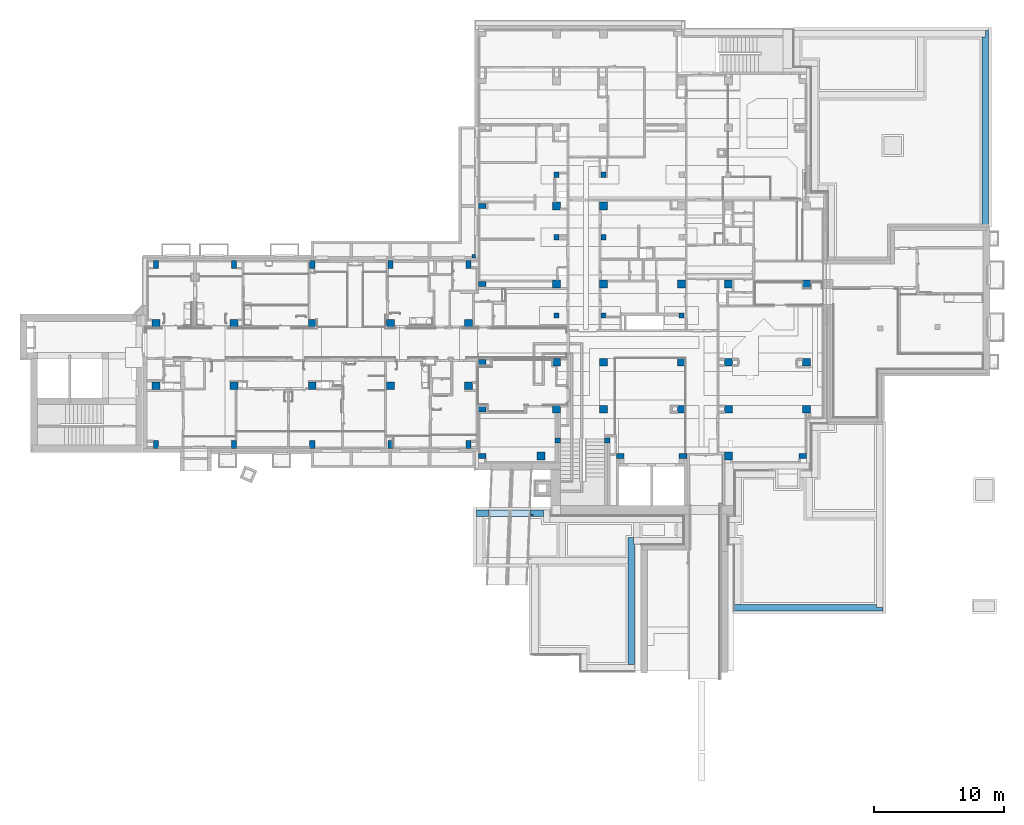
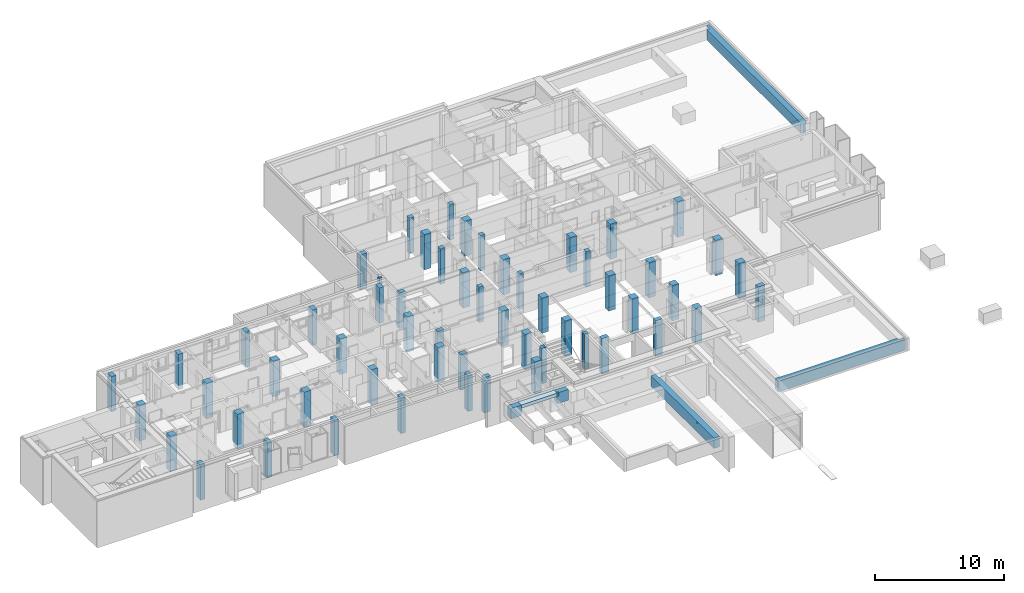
# One storey, part 3 of 84: 57 columns, 6 footings, 2 openings.
"""IFC4 building model written with IfcOpenShell, lengths in metres."""

from ifc_helpers import new_model, entity, si_unit, converted_unit, derived_unit, frame, frame_2d, origin, origin_with_axes, place, context, subcontext, project, spatial, polyline, rectangle, outline, extrude, faceted_brep, material, element, save


model = new_model("IFC4")

# Units and contexts
model_context = context("Model", 3, precision=1e-05, world=origin())
body_context = subcontext(model_context, "Body", "Model", "MODEL_VIEW")
ifc_project = project(units=[si_unit("LENGTHUNIT", "METRE"), si_unit("AREAUNIT", "SQUARE_METRE"), si_unit("VOLUMEUNIT", "CUBIC_METRE"), si_unit("MASSUNIT", "GRAM", prefix="KILO"), converted_unit("PLANEANGLEUNIT", "DEGREE", entity("IfcPlaneAngleMeasure", 0.0174532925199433), si_unit("PLANEANGLEUNIT", "RADIAN"), dimensions=[0, 0, 0, 0, 0, 0, 0]), derived_unit("THERMALTRANSMITTANCEUNIT", [(si_unit("POWERUNIT", "WATT"), 1), (si_unit("THERMODYNAMICTEMPERATUREUNIT", "KELVIN"), -1), (si_unit("LENGTHUNIT", "METRE"), -2)]), derived_unit("VOLUMETRICFLOWRATEUNIT", [(si_unit("LENGTHUNIT", "METRE"), 3), (converted_unit("TIMEUNIT", "hour", entity("IfcTimeMeasure", 3600.0), si_unit("TIMEUNIT", "SECOND"), dimensions=[0, 0, 1, 0, 0, 0, 0]), -1), (si_unit("LENGTHUNIT", "METRE"), -1)])], contexts=[model_context])

# Site, building, storey
site_placement = place(None, origin())
site = spatial("IfcSite", under=ifc_project, at=site_placement, Name="3. ASŘ", CompositionType="ELEMENT")
building_placement = place(site_placement, origin())
building = spatial("IfcBuilding", under=site, at=building_placement, Name="Pavilon C", CompositionType="ELEMENT")
storey_placement = place(building_placement, frame((0.0, 0.0, -3.3)))
storey = spatial("IfcBuildingStorey", under=building, at=storey_placement, Name="Půdorys 1.PP", CompositionType="ELEMENT", Elevation=-3.3)

# Footing
ifc_material_1 = material(Name="ZELEZOBETONOVÁ KCE")
footing_1_placement = place(storey_placement, frame((24.6, -4.65, 1.8)))
element("IfcFooting", 1, at=footing_1_placement, inside=storey, material=ifc_material_1, PredefinedType="STRIP_FOOTING", context=body_context, shape_type="Brep", body=[
    faceted_brep([(0.936240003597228, 0.0, 0.0), (0.957023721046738, 0.5, 0.0), (0.0, 0.5, 0.0), (0.0, 0.0, 0.0), (0.957023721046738, 0.5, 1.0), (0.936240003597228, 0.0, 1.0), (0.0, 0.0, 1.0), (0.0, 0.5, 1.0)], [[[0, 1, 2, 3]], [[4, 5, 6, 7]], [[1, 0, 5, 4]], [[2, 1, 4, 7]], [[3, 2, 7, 6]], [[0, 3, 6, 5]]], orient=[[False], [False], [False], [False], [False], [False]]),
])

# Footing, opening
ifc_material_2 = material(Name="ZELEZOBETONOVÁ KCE")
footing_2_placement = place(storey_placement, frame((36.25, -15.995, 1.8)))
footing_2 = element("IfcFooting", 2, at=footing_2_placement, inside=storey, material=ifc_material_2, PredefinedType="STRIP_FOOTING", context=body_context, shape_type="Brep", body=[
    faceted_brep([(0.0, 0.0, 0.0), (0.5, 0.0, 0.0), (0.5, 9.245, 0.0), (0.4, 9.245, 0.0), (0.4, 9.745, 0.0), (0.0, 9.745, 0.0), (0.5, 0.0, 1.0), (0.0, 0.0, 1.0), (0.0, 9.745, 1.0), (0.4, 9.745, 1.0), (0.4, 9.245, 1.0), (0.5, 9.245, 1.0)], [[[0, 1, 2, 3, 4, 5]], [[6, 7, 8, 9, 10, 11]], [[1, 0, 7, 6]], [[2, 1, 6, 11]], [[3, 2, 11, 10]], [[4, 3, 10, 9]], [[5, 4, 9, 8]], [[0, 5, 8, 7]]], orient=[[False], [False], [False], [False], [False], [False], [False], [False]]),
])
opening_1_placement = place(footing_2_placement, frame((0.0, 2.71999999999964, 0.770000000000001), z_axis=(1.0, 0.0, 0.0), x_axis=(0.0, 0.0, 1.0)))
element("IfcOpeningElement", 3, at=opening_1_placement, cuts=footing_2, Name="ZTI", ObjectType="Opening", context=body_context, shape_type="SweptSolid", body=[
    extrude(outline(polyline([(0.0999999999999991, 0.0), (0.0895471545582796, 0.000547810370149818), (0.079208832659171, 0.00218523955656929), (0.0690983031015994, 0.00489434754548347), (0.0593263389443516, 0.00864545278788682), (0.0500000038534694, 0.0133974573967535), (0.0412214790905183, 0.0190982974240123), (0.0330869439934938, 0.0256855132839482), (0.025685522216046, 0.0330869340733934), (0.0190983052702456, 0.0412214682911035), (0.0133974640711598, 0.0499999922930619), (0.00864545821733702, 0.0593263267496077), (0.00489435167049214, 0.0690982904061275), (0.00218524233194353, 0.079208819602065), (0.000547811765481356, 0.0895471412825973), (0.0, 0.0999999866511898), (0.000547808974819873, 0.110452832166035), (0.00218523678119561, 0.120791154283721), (0.00489434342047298, 0.130901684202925), (0.00864544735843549, 0.140673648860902), (0.0133974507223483, 0.14999998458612), (0.0190982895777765, 0.158778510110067), (0.0256855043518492, 0.166913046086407), (0.0330869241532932, 0.174314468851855), (0.0412214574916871, 0.180901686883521), (0.0499999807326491, 0.186602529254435), (0.0593263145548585, 0.191354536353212), (0.06909827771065, 0.195105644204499), (0.0792088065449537, 0.197814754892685), (0.0895471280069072, 0.199452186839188), (0.0999999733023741, 0.2), (0.110452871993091, 0.199452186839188), (0.120791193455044, 0.197814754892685), (0.130901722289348, 0.195105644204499), (0.14067368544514, 0.191354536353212), (0.150000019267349, 0.186602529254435), (0.158778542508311, 0.180901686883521), (0.166913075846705, 0.174314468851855), (0.174314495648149, 0.166913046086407), (0.180901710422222, 0.158778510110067), (0.18660254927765, 0.14999998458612), (0.191354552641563, 0.140673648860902), (0.195105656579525, 0.130901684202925), (0.197814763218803, 0.120791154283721), (0.199452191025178, 0.110452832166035), (0.199999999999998, 0.0999999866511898), (0.199452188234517, 0.0895471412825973), (0.197814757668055, 0.079208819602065), (0.195105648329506, 0.0690982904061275), (0.191354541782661, 0.0593263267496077), (0.186602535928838, 0.0499999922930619), (0.180901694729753, 0.0412214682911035), (0.174314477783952, 0.0330869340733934), (0.166913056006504, 0.0256855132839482), (0.15877852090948, 0.0190982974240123), (0.149999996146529, 0.0133974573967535), (0.140673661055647, 0.00864545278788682), (0.130901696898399, 0.00489434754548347), (0.120791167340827, 0.00218523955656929), (0.110452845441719, 0.000547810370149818), (0.0999999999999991, 0.0)])), origin_with_axes(), (0.0, 0.0, 1.0), 0.5),
])

ifc_material_3 = material(Name="ZELEZOBETONOVÁ KCE")
footing_3_placement = place(storey_placement, frame((28.748977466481, -4.65, 1.8)))
footing_3 = element("IfcFooting", 4, at=footing_3_placement, inside=storey, material=ifc_material_3, PredefinedType="STRIP_FOOTING", context=body_context, shape_type="Brep", body=[
    faceted_brep([(0.99602253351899, 0.0, 0.0), (0.99602253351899, 0.5, 0.0), (0.0207837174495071, 0.5, 0.0), (0.0, 0.0, 0.0), (0.99602253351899, 0.5, 1.0), (0.99602253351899, 0.0, 1.0), (0.0, 0.0, 1.0), (0.0207837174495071, 0.5, 1.0)], [[[0, 1, 2, 3]], [[4, 5, 6, 7]], [[1, 0, 5, 4]], [[2, 1, 4, 7]], [[3, 2, 7, 6]], [[0, 3, 6, 5]]], orient=[[False], [False], [False], [False], [False], [False]]),
])
opening_2_placement = place(footing_3_placement, frame((0.0360225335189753, 0.0, 0.7), z_axis=(0.0, 1.0, 0.0), x_axis=(0.0, 0.0, 1.0)))
element("IfcOpeningElement", 5, at=opening_2_placement, cuts=footing_3, Name="Prostup stěnou", ObjectType="Opening", context=body_context, shape_type="SweptSolid", body=[
    extrude(outline(polyline([(0.0, 0.15), (0.3, 0.15), (0.3, 0.0), (0.0, 0.0), (0.0, 0.15)])), origin_with_axes(), (0.0, 0.0, 1.0), 0.15),
])

# Footings
ifc_material_4 = material(Name="ZELEZOBETONOVÁ KCE")
footing_4_placement = place(storey_placement, frame((25.5362400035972, -4.65000000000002, 2.5)))
element("IfcFooting", 6, at=footing_4_placement, inside=storey, material=ifc_material_4, PredefinedType="STRIP_FOOTING", context=body_context, shape_type="Brep", body=[
    faceted_brep([(3.21273746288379, 9.09494701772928e-16, 0.0), (3.23352118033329, 0.5, 0.0), (0.0207837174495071, 0.5, 0.0), (0.0, 9.09494701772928e-16, 0.0), (3.23352118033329, 0.5, 0.3), (3.21273746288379, 9.09494701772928e-16, 0.3), (0.0, 9.09494701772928e-16, 0.3), (0.0207837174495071, 0.5, 0.3)], [[[0, 1, 2, 3]], [[4, 5, 6, 7]], [[1, 0, 5, 4]], [[2, 1, 4, 7]], [[3, 2, 7, 6]], [[0, 3, 6, 5]]], orient=[[False], [False], [False], [False], [False], [False]]),
])
ifc_material_5 = material(Name="ZELEZOBETONOVÁ KCE")
footing_5_placement = place(storey_placement, frame((44.4, -11.875, 1.8)))
element("IfcFooting", 7, at=footing_5_placement, inside=storey, material=ifc_material_5, PredefinedType="STRIP_FOOTING", context=body_context, shape_type="Brep", body=[
    faceted_brep([(10.9250000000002, 0.25, 0.0), (10.9250000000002, 0.5, 0.0), (0.0, 0.5, 0.0), (0.0, 0.0, 0.0), (11.4250000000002, 0.0, 0.0), (11.4250000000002, 0.25, 0.0), (10.9250000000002, 0.5, 1.0), (10.9250000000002, 0.25, 1.0), (11.4250000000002, 0.25, 1.0), (11.4250000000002, 0.0, 1.0), (0.0, 0.0, 1.0), (0.0, 0.5, 1.0)], [[[0, 1, 2, 3, 4, 5]], [[6, 7, 8, 9, 10, 11]], [[1, 0, 7, 6]], [[2, 1, 6, 11]], [[3, 2, 11, 10]], [[4, 3, 10, 9]], [[5, 4, 9, 8]], [[0, 5, 8, 7]]], orient=[[False], [False], [False], [False], [False], [False], [False], [False]]),
])
ifc_material_6 = material(Name="ZELEZOBETONOVÁ KCE")
footing_6_placement = place(storey_placement, frame((63.425, 17.6, 1.8)))
element("IfcFooting", 8, at=footing_6_placement, inside=storey, material=ifc_material_6, PredefinedType="STRIP_FOOTING", context=body_context, shape_type="Brep", body=[
    faceted_brep([(0.248499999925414, 14.575, 0.0), (0.0, 14.575, 0.0), (0.0, -3.63797880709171e-15, 0.0), (0.5, -3.63797880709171e-15, 0.0), (0.5, 15.075, 0.0), (0.248499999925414, 15.075, 0.0), (0.0, 14.575, 1.0), (0.248499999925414, 14.575, 1.0), (0.248499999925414, 15.075, 1.0), (0.5, 15.075, 1.0), (0.5, -3.63797880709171e-15, 1.0), (0.0, -3.63797880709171e-15, 1.0)], [[[0, 1, 2, 3, 4, 5]], [[6, 7, 8, 9, 10, 11]], [[1, 0, 7, 6]], [[2, 1, 6, 11]], [[3, 2, 11, 10]], [[4, 3, 10, 9]], [[5, 4, 9, 8]], [[0, 5, 8, 7]]], orient=[[False], [False], [False], [False], [False], [False], [False], [False]]),
])

# Columns
ifc_material_7 = material(Name="ZELEZOBETONOVÁ KCE")
column_1_placement = place(storey_placement, frame((30.95, 11.0, -0.4)))
element("IfcColumn", 9, at=column_1_placement, inside=storey, material=ifc_material_7, PredefinedType="COLUMN", context=body_context, shape_type="SweptSolid", body=[
    extrude(rectangle(XDim=0.4, YDim=0.4, at=frame_2d((-0.2, -0.2), x_axis=(-1.0, 0.0))), origin_with_axes(), (0.0, 0.0, 1.0), 3.35),
])
ifc_material_8 = material(Name="ZELEZOBETONOVÁ KCE")
column_2_placement = place(storey_placement, frame((34.55, 21.8, -0.4)))
element("IfcColumn", 10, at=column_2_placement, inside=storey, material=ifc_material_8, PredefinedType="COLUMN", context=body_context, shape_type="SweptSolid", body=[
    extrude(rectangle(XDim=0.4, YDim=0.4, at=frame_2d((-0.2, -0.2), x_axis=(-1.0, 0.0))), origin_with_axes(), (0.0, 0.0, 1.0), 3.35),
])
ifc_material_9 = material(Name="ZELEZOBETONOVÁ KCE")
column_3_placement = place(storey_placement, frame((30.95, 17.0, -0.4)))
element("IfcColumn", 11, at=column_3_placement, inside=storey, material=ifc_material_9, PredefinedType="COLUMN", context=body_context, shape_type="SweptSolid", body=[
    extrude(rectangle(XDim=0.4, YDim=0.4, at=frame_2d((-0.2, -0.2), x_axis=(-1.0, 0.0))), origin_with_axes(), (0.0, 0.0, 1.0), 3.35),
])
ifc_material_10 = material(Name="ZELEZOBETONOVÁ KCE")
column_4_placement = place(storey_placement, frame((50.25, 13.5, -0.4)))
element("IfcColumn", 12, at=column_4_placement, inside=storey, material=ifc_material_10, PredefinedType="COLUMN", context=body_context, shape_type="SweptSolid", body=[
    extrude(rectangle(XDim=0.6, YDim=0.6, at=frame_2d((-0.3, -0.3), x_axis=(-1.0, 0.0))), origin_with_axes(), (0.0, 0.0, 1.0), 3.35),
])
ifc_material_11 = material(Name="ZELEZOBETONOVÁ KCE")
column_5_placement = place(storey_placement, frame((34.65, 3.9, -0.4)))
element("IfcColumn", 13, at=column_5_placement, inside=storey, material=ifc_material_11, PredefinedType="COLUMN", context=body_context, shape_type="SweptSolid", body=[
    extrude(rectangle(XDim=0.6, YDim=0.6, at=frame_2d((-0.3, -0.3), x_axis=(-1.0, 0.0))), origin_with_axes(), (0.0, 0.0, 1.0), 3.35),
])
ifc_material_12 = material(Name="ZELEZOBETONOVÁ KCE")
column_6_placement = place(storey_placement, frame((34.65, 7.5, -0.4)))
element("IfcColumn", 14, at=column_6_placement, inside=storey, material=ifc_material_12, PredefinedType="COLUMN", context=body_context, shape_type="SweptSolid", body=[
    extrude(rectangle(XDim=0.6, YDim=0.6, at=frame_2d((-0.3, -0.3), x_axis=(-1.0, 0.0))), origin_with_axes(), (0.0, 0.0, 1.0), 3.35),
])
ifc_material_13 = material(Name="ZELEZOBETONOVÁ KCE")
column_7_placement = place(storey_placement, frame((31.05, 19.5, -0.4)))
element("IfcColumn", 15, at=column_7_placement, inside=storey, material=ifc_material_13, PredefinedType="COLUMN", context=body_context, shape_type="SweptSolid", body=[
    extrude(rectangle(XDim=0.6, YDim=0.6, at=frame_2d((-0.3, -0.3), x_axis=(-1.0, 0.0))), origin_with_axes(), (0.0, 0.0, 1.0), 3.35),
])
ifc_material_14 = material(Name="ZELEZOBETONOVÁ KCE")
column_8_placement = place(storey_placement, frame((34.85, 1.4, -0.4)))
element("IfcColumn", 16, at=column_8_placement, inside=storey, material=ifc_material_14, PredefinedType="COLUMN", context=body_context, shape_type="SweptSolid", body=[
    extrude(rectangle(XDim=0.4, YDim=0.4, at=frame_2d((-0.2, -0.2), x_axis=(-1.0, 0.0))), origin_with_axes(), (0.0, 0.0, 1.0), 3.35),
])
ifc_material_15 = material(Name="ZELEZOBETONOVÁ KCE")
column_9_placement = place(storey_placement, frame((31.05, 1.4, -0.4)))
element("IfcColumn", 17, at=column_9_placement, inside=storey, material=ifc_material_15, PredefinedType="COLUMN", context=body_context, shape_type="SweptSolid", body=[
    extrude(rectangle(XDim=0.4, YDim=0.4, at=frame_2d((-0.2, -0.2), x_axis=(-1.0, 0.0))), origin_with_axes(), (0.0, 0.0, 1.0), 3.35),
])
ifc_material_16 = material(Name="ZELEZOBETONOVÁ KCE")
column_10_placement = place(storey_placement, frame((31.05, 3.9, -0.4)))
element("IfcColumn", 18, at=column_10_placement, inside=storey, material=ifc_material_16, PredefinedType="COLUMN", context=body_context, shape_type="SweptSolid", body=[
    extrude(rectangle(XDim=0.6, YDim=0.6, at=frame_2d((-0.3, -0.3), x_axis=(-1.0, 0.0))), origin_with_axes(), (0.0, 0.0, 1.0), 3.35),
])
ifc_material_17 = material(Name="ZELEZOBETONOVÁ KCE")
column_11_placement = place(storey_placement, frame((29.85, 0.299999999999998, -0.1)))
element("IfcColumn", 19, at=column_11_placement, inside=storey, material=ifc_material_17, PredefinedType="COLUMN", context=body_context, shape_type="SweptSolid", body=[
    extrude(rectangle(XDim=0.6, YDim=0.6, at=frame_2d((-0.3, -0.3), x_axis=(-1.0, 0.0))), origin_with_axes(), (0.0, 0.0, 1.0), 3.05),
])
ifc_material_18 = material(Name="ZELEZOBETONOVÁ KCE")
column_12_placement = place(storey_placement, frame((24.275, 15.225, -0.4)))
element("IfcColumn", 20, at=column_12_placement, inside=storey, material=ifc_material_18, PredefinedType="COLUMN", context=body_context, shape_type="SweptSolid", body=[
    extrude(rectangle(XDim=0.25, YDim=0.25, at=frame_2d((0.125, 0.125), x_axis=(1.0, 0.0))), origin_with_axes(), (0.0, 0.0, 1.0), 3.6),
])
ifc_material_19 = material(Name="ZELEZOBETONOVÁ KCE")
column_13_placement = place(storey_placement, frame((50.25, 7.49999999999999, -0.4)))
element("IfcColumn", 21, at=column_13_placement, inside=storey, material=ifc_material_19, PredefinedType="COLUMN", context=body_context, shape_type="SweptSolid", body=[
    extrude(rectangle(XDim=0.6, YDim=0.6, at=frame_2d((-0.3, -0.3), x_axis=(-1.0, 0.0))), origin_with_axes(), (0.0, 0.0, 1.0), 3.35),
])
ifc_material_20 = material(Name="ZELEZOBETONOVÁ KCE")
column_14_placement = place(storey_placement, frame((18.3, 5.7, -0.4)))
element("IfcColumn", 22, at=column_14_placement, inside=storey, material=ifc_material_20, PredefinedType="COLUMN", context=body_context, shape_type="SweptSolid", body=[
    extrude(rectangle(XDim=0.600000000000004, YDim=0.6, at=frame_2d((-0.3, -0.3), x_axis=(-1.0, 0.0))), origin_with_axes(), (0.0, 0.0, 1.0), 3.35),
])
ifc_material_21 = material(Name="ZELEZOBETONOVÁ KCE")
column_15_placement = place(storey_placement, frame((17.8, 14.4, -0.4)))
element("IfcColumn", 23, at=column_15_placement, inside=storey, material=ifc_material_21, PredefinedType="COLUMN", context=body_context, shape_type="SweptSolid", body=[
    extrude(rectangle(XDim=0.4, YDim=0.6, at=frame_2d((0.2, 0.3), x_axis=(1.0, 0.0))), origin_with_axes(), (0.0, 0.0, 1.0), 3.35),
])
ifc_material_22 = material(Name="ZELEZOBETONOVÁ KCE")
column_16_placement = place(storey_placement, frame((44.25, 7.49999999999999, -0.4)))
element("IfcColumn", 24, at=column_16_placement, inside=storey, material=ifc_material_22, PredefinedType="COLUMN", context=body_context, shape_type="SweptSolid", body=[
    extrude(rectangle(XDim=0.6, YDim=0.6, at=frame_2d((-0.3, -0.3), x_axis=(-1.0, 0.0))), origin_with_axes(), (0.0, 0.0, 1.0), 3.35),
])
ifc_material_23 = material(Name="ZELEZOBETONOVÁ KCE")
column_17_placement = place(storey_placement, frame((44.25, 3.89999999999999, -0.4)))
element("IfcColumn", 25, at=column_17_placement, inside=storey, material=ifc_material_23, PredefinedType="COLUMN", context=body_context, shape_type="SweptSolid", body=[
    extrude(rectangle(XDim=0.6, YDim=0.6, at=frame_2d((-0.3, -0.3), x_axis=(-1.0, 0.0))), origin_with_axes(), (0.0, 0.0, 1.0), 3.35),
])
ifc_material_24 = material(Name="ZELEZOBETONOVÁ KCE")
column_18_placement = place(storey_placement, frame((44.25, 13.5, -0.4)))
element("IfcColumn", 26, at=column_18_placement, inside=storey, material=ifc_material_24, PredefinedType="COLUMN", context=body_context, shape_type="SweptSolid", body=[
    extrude(rectangle(XDim=0.6, YDim=0.6, at=frame_2d((-0.3, -0.3), x_axis=(-1.0, 0.0))), origin_with_axes(), (0.0, 0.0, 1.0), 3.35),
])
ifc_material_25 = material(Name="ZELEZOBETONOVÁ KCE")
column_19_placement = place(storey_placement, frame((40.55, 11.0, -0.4)))
element("IfcColumn", 27, at=column_19_placement, inside=storey, material=ifc_material_25, PredefinedType="COLUMN", context=body_context, shape_type="SweptSolid", body=[
    extrude(rectangle(XDim=0.4, YDim=0.4, at=frame_2d((-0.2, -0.2), x_axis=(-1.0, 0.0))), origin_with_axes(), (0.0, 0.0, 1.0), 3.35),
])
ifc_material_26 = material(Name="ZELEZOBETONOVÁ KCE")
column_20_placement = place(storey_placement, frame((40.65, 13.5, -0.4)))
element("IfcColumn", 28, at=column_20_placement, inside=storey, material=ifc_material_26, PredefinedType="COLUMN", context=body_context, shape_type="SweptSolid", body=[
    extrude(rectangle(XDim=0.6, YDim=0.6, at=frame_2d((-0.3, -0.3), x_axis=(-1.0, 0.0))), origin_with_axes(), (0.0, 0.0, 1.0), 3.35),
])
ifc_material_27 = material(Name="ZELEZOBETONOVÁ KCE")
column_21_placement = place(storey_placement, frame((40.75, 0.199999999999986, -0.4)))
element("IfcColumn", 29, at=column_21_placement, inside=storey, material=ifc_material_27, PredefinedType="COLUMN", context=body_context, shape_type="SweptSolid", body=[
    extrude(rectangle(XDim=0.6, YDim=0.4, at=frame_2d((-0.3, -0.2), x_axis=(-1.0, 0.0))), origin_with_axes(), (0.0, 0.0, 1.0), 3.35),
])
ifc_material_28 = material(Name="ZELEZOBETONOVÁ KCE")
column_22_placement = place(storey_placement, frame((40.65, 7.49999999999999, -0.4)))
element("IfcColumn", 30, at=column_22_placement, inside=storey, material=ifc_material_28, PredefinedType="COLUMN", context=body_context, shape_type="SweptSolid", body=[
    extrude(rectangle(XDim=0.6, YDim=0.6, at=frame_2d((-0.3, -0.3), x_axis=(-1.0, 0.0))), origin_with_axes(), (0.0, 0.0, 1.0), 3.35),
])
ifc_material_29 = material(Name="ZELEZOBETONOVÁ KCE")
column_23_placement = place(storey_placement, frame((25.35, 13.4, -0.4)))
element("IfcColumn", 31, at=column_23_placement, inside=storey, material=ifc_material_29, PredefinedType="COLUMN", context=body_context, shape_type="SweptSolid", body=[
    extrude(rectangle(XDim=0.6, YDim=0.4, at=frame_2d((-0.3, -0.2), x_axis=(-1.0, 0.0))), origin_with_axes(), (0.0, 0.0, 1.0), 3.35),
])
ifc_material_30 = material(Name="ZELEZOBETONOVÁ KCE")
column_24_placement = place(storey_placement, frame((31.05, 13.5, -0.4)))
element("IfcColumn", 32, at=column_24_placement, inside=storey, material=ifc_material_30, PredefinedType="COLUMN", context=body_context, shape_type="SweptSolid", body=[
    extrude(rectangle(XDim=0.6, YDim=0.6, at=frame_2d((-0.3, -0.3), x_axis=(-1.0, 0.0))), origin_with_axes(), (0.0, 0.0, 1.0), 3.35),
])
ifc_material_31 = material(Name="ZELEZOBETONOVÁ KCE")
column_25_placement = place(storey_placement, frame((24.3, 10.5, -0.4)))
element("IfcColumn", 33, at=column_25_placement, inside=storey, material=ifc_material_31, PredefinedType="COLUMN", context=body_context, shape_type="SweptSolid", body=[
    extrude(rectangle(XDim=0.600000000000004, YDim=0.6, at=frame_2d((-0.300000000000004, -0.3), x_axis=(-1.0, 0.0))), origin_with_axes(), (0.0, 0.0, 1.0), 3.35),
])
ifc_material_32 = material(Name="ZELEZOBETONOVÁ KCE")
column_26_placement = place(storey_placement, frame((6.30000000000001, 5.7, -0.4)))
element("IfcColumn", 34, at=column_26_placement, inside=storey, material=ifc_material_32, PredefinedType="COLUMN", context=body_context, shape_type="SweptSolid", body=[
    extrude(rectangle(XDim=0.6, YDim=0.6, at=frame_2d((-0.3, -0.3), x_axis=(-1.0, 0.0))), origin_with_axes(), (0.0, 0.0, 1.0), 3.35),
])
ifc_material_33 = material(Name="ZELEZOBETONOVÁ KCE")
column_27_placement = place(storey_placement, frame((40.65, 3.89999999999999, -0.4)))
element("IfcColumn", 35, at=column_27_placement, inside=storey, material=ifc_material_33, PredefinedType="COLUMN", context=body_context, shape_type="SweptSolid", body=[
    extrude(rectangle(XDim=0.6, YDim=0.6, at=frame_2d((-0.3, -0.3), x_axis=(-1.0, 0.0))), origin_with_axes(), (0.0, 0.0, 1.0), 3.35),
])
ifc_material_34 = material(Name="ZELEZOBETONOVÁ KCE")
column_28_placement = place(storey_placement, frame((18.2, 1.2, -0.4)))
element("IfcColumn", 36, at=column_28_placement, inside=storey, material=ifc_material_34, PredefinedType="COLUMN", context=body_context, shape_type="SweptSolid", body=[
    extrude(rectangle(XDim=0.4, YDim=0.6, at=frame_2d((-0.2, -0.3), x_axis=(-1.0, 0.0))), origin_with_axes(), (0.0, 0.0, 1.0), 3.35),
])
ifc_material_35 = material(Name="ZELEZOBETONOVÁ KCE")
column_29_placement = place(storey_placement, frame((35.95, 0.199999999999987, -0.4)))
element("IfcColumn", 37, at=column_29_placement, inside=storey, material=ifc_material_35, PredefinedType="COLUMN", context=body_context, shape_type="SweptSolid", body=[
    extrude(rectangle(XDim=0.6, YDim=0.4, at=frame_2d((-0.3, -0.2), x_axis=(-1.0, 0.0))), origin_with_axes(), (0.0, 0.0, 1.0), 3.35),
])
ifc_material_36 = material(Name="ZELEZOBETONOVÁ KCE")
column_30_placement = place(storey_placement, frame((0.300000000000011, 10.5, -0.4)))
element("IfcColumn", 38, at=column_30_placement, inside=storey, material=ifc_material_36, PredefinedType="COLUMN", context=body_context, shape_type="SweptSolid", body=[
    extrude(rectangle(XDim=0.6, YDim=0.6, at=frame_2d((-0.3, -0.3), x_axis=(-1.0, 0.0))), origin_with_axes(), (0.0, 0.0, 1.0), 3.35),
])
ifc_material_37 = material(Name="ZELEZOBETONOVÁ KCE")
column_31_placement = place(storey_placement, frame((50.25, 3.89999999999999, -0.4)))
element("IfcColumn", 39, at=column_31_placement, inside=storey, material=ifc_material_37, PredefinedType="COLUMN", context=body_context, shape_type="SweptSolid", body=[
    extrude(rectangle(XDim=0.6, YDim=0.6, at=frame_2d((-0.3, -0.3), x_axis=(-1.0, 0.0))), origin_with_axes(), (0.0, 0.0, 1.0), 3.35),
])
ifc_material_38 = material(Name="ZELEZOBETONOVÁ KCE")
column_32_placement = place(storey_placement, frame((44.25, 0.29999999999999, -0.4)))
element("IfcColumn", 40, at=column_32_placement, inside=storey, material=ifc_material_38, PredefinedType="COLUMN", context=body_context, shape_type="SweptSolid", body=[
    extrude(rectangle(XDim=0.6, YDim=0.6, at=frame_2d((-0.3, -0.3), x_axis=(-1.0, 0.0))), origin_with_axes(), (0.0, 0.0, 1.0), 3.35),
])
ifc_material_39 = material(Name="ZELEZOBETONOVÁ KCE")
column_33_placement = place(storey_placement, frame((24.2, 1.2, -0.4)))
element("IfcColumn", 41, at=column_33_placement, inside=storey, material=ifc_material_39, PredefinedType="COLUMN", context=body_context, shape_type="SweptSolid", body=[
    extrude(rectangle(XDim=0.4, YDim=0.6, at=frame_2d((-0.2, -0.3), x_axis=(-1.0, 0.0))), origin_with_axes(), (0.0, 0.0, 1.0), 3.35),
])
ifc_material_40 = material(Name="ZELEZOBETONOVÁ KCE")
column_34_placement = place(storey_placement, frame((24.3, 5.7, -0.4)))
element("IfcColumn", 42, at=column_34_placement, inside=storey, material=ifc_material_40, PredefinedType="COLUMN", context=body_context, shape_type="SweptSolid", body=[
    extrude(rectangle(XDim=0.6, YDim=0.6, at=frame_2d((-0.3, -0.3), x_axis=(-1.0, 0.0))), origin_with_axes(), (0.0, 0.0, 1.0), 3.35),
])
ifc_material_41 = material(Name="ZELEZOBETONOVÁ KCE")
column_35_placement = place(storey_placement, frame((18.3, 10.5, -0.4)))
element("IfcColumn", 43, at=column_35_placement, inside=storey, material=ifc_material_41, PredefinedType="COLUMN", context=body_context, shape_type="SweptSolid", body=[
    extrude(rectangle(XDim=0.600000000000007, YDim=0.6, at=frame_2d((-0.300000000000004, -0.3), x_axis=(-1.0, 0.0))), origin_with_axes(), (0.0, 0.0, 1.0), 3.35),
])
ifc_material_42 = material(Name="ZELEZOBETONOVÁ KCE")
column_36_placement = place(storey_placement, frame((0.200000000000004, 1.2, -0.4)))
element("IfcColumn", 44, at=column_36_placement, inside=storey, material=ifc_material_42, PredefinedType="COLUMN", context=body_context, shape_type="SweptSolid", body=[
    extrude(rectangle(XDim=0.4, YDim=0.6, at=frame_2d((-0.2, -0.3), x_axis=(-1.0, 0.0))), origin_with_axes(), (0.0, 0.0, 1.0), 3.35),
])
ifc_material_43 = material(Name="ZELEZOBETONOVÁ KCE")
column_37_placement = place(storey_placement, frame((30.95, 21.8, -0.4)))
element("IfcColumn", 45, at=column_37_placement, inside=storey, material=ifc_material_43, PredefinedType="COLUMN", context=body_context, shape_type="SweptSolid", body=[
    extrude(rectangle(XDim=0.4, YDim=0.4, at=frame_2d((-0.2, -0.2), x_axis=(-1.0, 0.0))), origin_with_axes(), (0.0, 0.0, 1.0), 3.35),
])
ifc_material_44 = material(Name="ZELEZOBETONOVÁ KCE")
column_38_placement = place(storey_placement, frame((25.35, 19.4, -0.4)))
element("IfcColumn", 46, at=column_38_placement, inside=storey, material=ifc_material_44, PredefinedType="COLUMN", context=body_context, shape_type="SweptSolid", body=[
    extrude(rectangle(XDim=0.599999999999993, YDim=0.4, at=frame_2d((-0.299999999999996, -0.2), x_axis=(-1.0, 0.0))), origin_with_axes(), (0.0, 0.0, 1.0), 3.35),
])
ifc_material_45 = material(Name="ZELEZOBETONOVÁ KCE")
column_39_placement = place(storey_placement, frame((34.65, 19.5, -0.4)))
element("IfcColumn", 47, at=column_39_placement, inside=storey, material=ifc_material_45, PredefinedType="COLUMN", context=body_context, shape_type="SweptSolid", body=[
    extrude(rectangle(XDim=0.6, YDim=0.6, at=frame_2d((-0.3, -0.3), x_axis=(-1.0, 0.0))), origin_with_axes(), (0.0, 0.0, 1.0), 3.35),
])
ifc_material_46 = material(Name="ZELEZOBETONOVÁ KCE")
column_40_placement = place(storey_placement, frame((34.55, 17.0, -0.4)))
element("IfcColumn", 48, at=column_40_placement, inside=storey, material=ifc_material_46, PredefinedType="COLUMN", context=body_context, shape_type="SweptSolid", body=[
    extrude(rectangle(XDim=0.4, YDim=0.4, at=frame_2d((-0.2, -0.2), x_axis=(-1.0, 0.0))), origin_with_axes(), (0.0, 0.0, 1.0), 3.35),
])
ifc_material_47 = material(Name="ZELEZOBETONOVÁ KCE")
column_41_placement = place(storey_placement, frame((34.65, 13.5, -0.4)))
element("IfcColumn", 49, at=column_41_placement, inside=storey, material=ifc_material_47, PredefinedType="COLUMN", context=body_context, shape_type="SweptSolid", body=[
    extrude(rectangle(XDim=0.6, YDim=0.6, at=frame_2d((-0.3, -0.3), x_axis=(-1.0, 0.0))), origin_with_axes(), (0.0, 0.0, 1.0), 3.35),
])
ifc_material_48 = material(Name="ZELEZOBETONOVÁ KCE")
column_42_placement = place(storey_placement, frame((34.55, 11.0, -0.4)))
element("IfcColumn", 50, at=column_42_placement, inside=storey, material=ifc_material_48, PredefinedType="COLUMN", context=body_context, shape_type="SweptSolid", body=[
    extrude(rectangle(XDim=0.4, YDim=0.4, at=frame_2d((-0.2, -0.2), x_axis=(-1.0, 0.0))), origin_with_axes(), (0.0, 0.0, 1.0), 3.35),
])
ifc_material_49 = material(Name="ZELEZOBETONOVÁ KCE")
column_43_placement = place(storey_placement, frame((49.95, 0.19999999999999, -0.4)))
element("IfcColumn", 51, at=column_43_placement, inside=storey, material=ifc_material_49, PredefinedType="COLUMN", context=body_context, shape_type="SweptSolid", body=[
    extrude(rectangle(XDim=0.6, YDim=0.4, at=frame_2d((-0.3, -0.2), x_axis=(-1.0, 0.0))), origin_with_axes(), (0.0, 0.0, 1.0), 3.35),
])
ifc_material_50 = material(Name="ZELEZOBETONOVÁ KCE")
column_44_placement = place(storey_placement, frame((0.300000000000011, 5.7, -0.4)))
element("IfcColumn", 52, at=column_44_placement, inside=storey, material=ifc_material_50, PredefinedType="COLUMN", context=body_context, shape_type="SweptSolid", body=[
    extrude(rectangle(XDim=0.6, YDim=0.6, at=frame_2d((-0.3, -0.3), x_axis=(-1.0, 0.0))), origin_with_axes(), (0.0, 0.0, 1.0), 3.35),
])
ifc_material_51 = material(Name="ZELEZOBETONOVÁ KCE")
column_45_placement = place(storey_placement, frame((11.8, 14.4, -0.4)))
element("IfcColumn", 53, at=column_45_placement, inside=storey, material=ifc_material_51, PredefinedType="COLUMN", context=body_context, shape_type="SweptSolid", body=[
    extrude(rectangle(XDim=0.4, YDim=0.6, at=frame_2d((0.2, 0.3), x_axis=(1.0, 0.0))), origin_with_axes(), (0.0, 0.0, 1.0), 3.35),
])
ifc_material_52 = material(Name="ZELEZOBETONOVÁ KCE")
column_46_placement = place(storey_placement, frame((12.3, 10.5, -0.4)))
element("IfcColumn", 54, at=column_46_placement, inside=storey, material=ifc_material_52, PredefinedType="COLUMN", context=body_context, shape_type="SweptSolid", body=[
    extrude(rectangle(XDim=0.6, YDim=0.6, at=frame_2d((-0.3, -0.3), x_axis=(-1.0, 0.0))), origin_with_axes(), (0.0, 0.0, 1.0), 3.35),
])
ifc_material_53 = material(Name="ZELEZOBETONOVÁ KCE")
column_47_placement = place(storey_placement, frame((6.30000000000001, 10.5, -0.4)))
element("IfcColumn", 55, at=column_47_placement, inside=storey, material=ifc_material_53, PredefinedType="COLUMN", context=body_context, shape_type="SweptSolid", body=[
    extrude(rectangle(XDim=0.6, YDim=0.6, at=frame_2d((-0.3, -0.3), x_axis=(-1.0, 0.0))), origin_with_axes(), (0.0, 0.0, 1.0), 3.35),
])
ifc_material_54 = material(Name="ZELEZOBETONOVÁ KCE")
column_48_placement = place(storey_placement, frame((-0.199999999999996, 14.4, -0.4)))
element("IfcColumn", 56, at=column_48_placement, inside=storey, material=ifc_material_54, PredefinedType="COLUMN", context=body_context, shape_type="SweptSolid", body=[
    extrude(rectangle(XDim=0.4, YDim=0.6, at=frame_2d((0.2, 0.3), x_axis=(1.0, 0.0))), origin_with_axes(), (0.0, 0.0, 1.0), 3.35),
])
ifc_material_55 = material(Name="ZELEZOBETONOVÁ KCE")
column_49_placement = place(storey_placement, frame((5.8, 14.4, -0.4)))
element("IfcColumn", 57, at=column_49_placement, inside=storey, material=ifc_material_55, PredefinedType="COLUMN", context=body_context, shape_type="SweptSolid", body=[
    extrude(rectangle(XDim=0.4, YDim=0.6, at=frame_2d((0.2, 0.3), x_axis=(1.0, 0.0))), origin_with_axes(), (0.0, 0.0, 1.0), 3.35),
])
ifc_material_56 = material(Name="ZELEZOBETONOVÁ KCE")
column_50_placement = place(storey_placement, frame((6.2, 1.2, -0.4)))
element("IfcColumn", 58, at=column_50_placement, inside=storey, material=ifc_material_56, PredefinedType="COLUMN", context=body_context, shape_type="SweptSolid", body=[
    extrude(rectangle(XDim=0.4, YDim=0.6, at=frame_2d((-0.2, -0.3), x_axis=(-1.0, 0.0))), origin_with_axes(), (0.0, 0.0, 1.0), 3.35),
])
ifc_material_57 = material(Name="ZELEZOBETONOVÁ KCE")
column_51_placement = place(storey_placement, frame((12.2, 1.2, -0.4)))
element("IfcColumn", 59, at=column_51_placement, inside=storey, material=ifc_material_57, PredefinedType="COLUMN", context=body_context, shape_type="SweptSolid", body=[
    extrude(rectangle(XDim=0.4, YDim=0.6, at=frame_2d((-0.2, -0.3), x_axis=(-1.0, 0.0))), origin_with_axes(), (0.0, 0.0, 1.0), 3.35),
])
ifc_material_58 = material(Name="ZELEZOBETONOVÁ KCE")
column_52_placement = place(storey_placement, frame((31.05, 7.5, -0.4)))
element("IfcColumn", 60, at=column_52_placement, inside=storey, material=ifc_material_58, PredefinedType="COLUMN", context=body_context, shape_type="SweptSolid", body=[
    extrude(rectangle(XDim=0.6, YDim=0.6, at=frame_2d((-0.3, -0.3), x_axis=(-1.0, 0.0))), origin_with_axes(), (0.0, 0.0, 1.0), 3.35),
])
ifc_material_59 = material(Name="ZELEZOBETONOVÁ KCE")
column_53_placement = place(storey_placement, frame((25.35, 7.4, -0.4)))
element("IfcColumn", 61, at=column_53_placement, inside=storey, material=ifc_material_59, PredefinedType="COLUMN", context=body_context, shape_type="SweptSolid", body=[
    extrude(rectangle(XDim=0.6, YDim=0.4, at=frame_2d((-0.3, -0.2), x_axis=(-1.0, 0.0))), origin_with_axes(), (0.0, 0.0, 1.0), 3.35),
])
ifc_material_60 = material(Name="ZELEZOBETONOVÁ KCE")
column_54_placement = place(storey_placement, frame((25.35, 3.8, -0.4)))
element("IfcColumn", 62, at=column_54_placement, inside=storey, material=ifc_material_60, PredefinedType="COLUMN", context=body_context, shape_type="SweptSolid", body=[
    extrude(rectangle(XDim=0.6, YDim=0.4, at=frame_2d((-0.3, -0.2), x_axis=(-1.0, 0.0))), origin_with_axes(), (0.0, 0.0, 1.0), 3.35),
])
ifc_material_61 = material(Name="ZELEZOBETONOVÁ KCE")
column_55_placement = place(storey_placement, frame((25.35, 0.199999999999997, -0.4)))
element("IfcColumn", 63, at=column_55_placement, inside=storey, material=ifc_material_61, PredefinedType="COLUMN", context=body_context, shape_type="SweptSolid", body=[
    extrude(rectangle(XDim=0.6, YDim=0.4, at=frame_2d((-0.3, -0.2), x_axis=(-1.0, 0.0))), origin_with_axes(), (0.0, 0.0, 1.0), 3.35),
])
ifc_material_62 = material(Name="ZELEZOBETONOVÁ KCE")
column_56_placement = place(storey_placement, frame((23.8, 14.4, -0.4)))
element("IfcColumn", 64, at=column_56_placement, inside=storey, material=ifc_material_62, PredefinedType="COLUMN", context=body_context, shape_type="SweptSolid", body=[
    extrude(rectangle(XDim=0.4, YDim=0.6, at=frame_2d((0.2, 0.3), x_axis=(1.0, 0.0))), origin_with_axes(), (0.0, 0.0, 1.0), 3.35),
])
ifc_material_63 = material(Name="ZELEZOBETONOVÁ KCE")
column_57_placement = place(storey_placement, frame((12.3, 5.7, -0.4)))
element("IfcColumn", 65, at=column_57_placement, inside=storey, material=ifc_material_63, PredefinedType="COLUMN", context=body_context, shape_type="SweptSolid", body=[
    extrude(rectangle(XDim=0.6, YDim=0.6, at=frame_2d((-0.3, -0.3), x_axis=(-1.0, 0.0))), origin_with_axes(), (0.0, 0.0, 1.0), 3.35),
])

save(model, "model.ifc")
